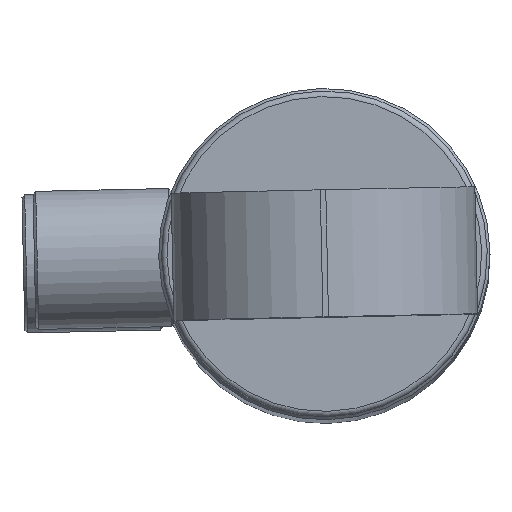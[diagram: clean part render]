
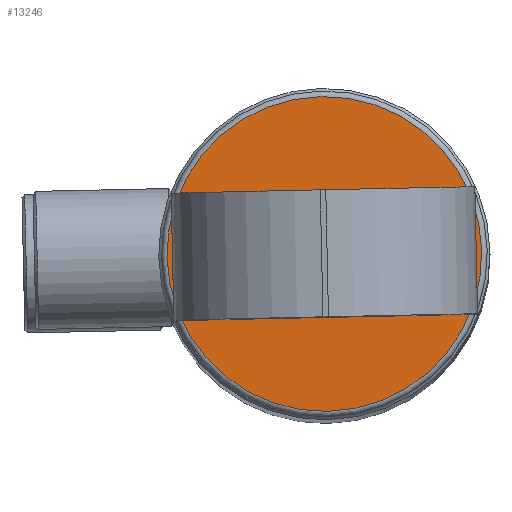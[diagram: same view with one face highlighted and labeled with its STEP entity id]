
A CAD part, top view. The second image highlights one B-rep face of the part: STEP entity #13246.
In plain terms, the highlighted planar face has unit normal (0, 0, 1) as drawn and (1, 0, 0) by its records, which use the part's own axes.
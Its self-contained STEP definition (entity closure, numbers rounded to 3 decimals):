
#1568=PLANE('',#14151);
#3803=FACE_OUTER_BOUND('',#4587,.T.);
#4587=EDGE_LOOP('',(#9104));
#5448=CIRCLE('',#14137,28.5);
#5631=VERTEX_POINT('',#17145);
#7007=EDGE_CURVE('',#5631,#5631,#5448,.T.);
#9104=ORIENTED_EDGE('',*,*,#7007,.F.);
#13246=ADVANCED_FACE('',(#3803),#1568,.F.);
#14137=AXIS2_PLACEMENT_3D('',#17147,#14833,#14834);
#14151=AXIS2_PLACEMENT_3D('',#17170,#14864,#14865);
#14833=DIRECTION('center_axis',(-1.,0.,0.));
#14834=DIRECTION('ref_axis',(0.,-1.,0.));
#14864=DIRECTION('center_axis',(-1.,0.,0.));
#14865=DIRECTION('ref_axis',(0.,-1.,0.));
#17145=CARTESIAN_POINT('',(15.5,28.5,0.));
#17147=CARTESIAN_POINT('Origin',(15.5,0.,0.));
#17170=CARTESIAN_POINT('Origin',(15.5,28.5,0.));
